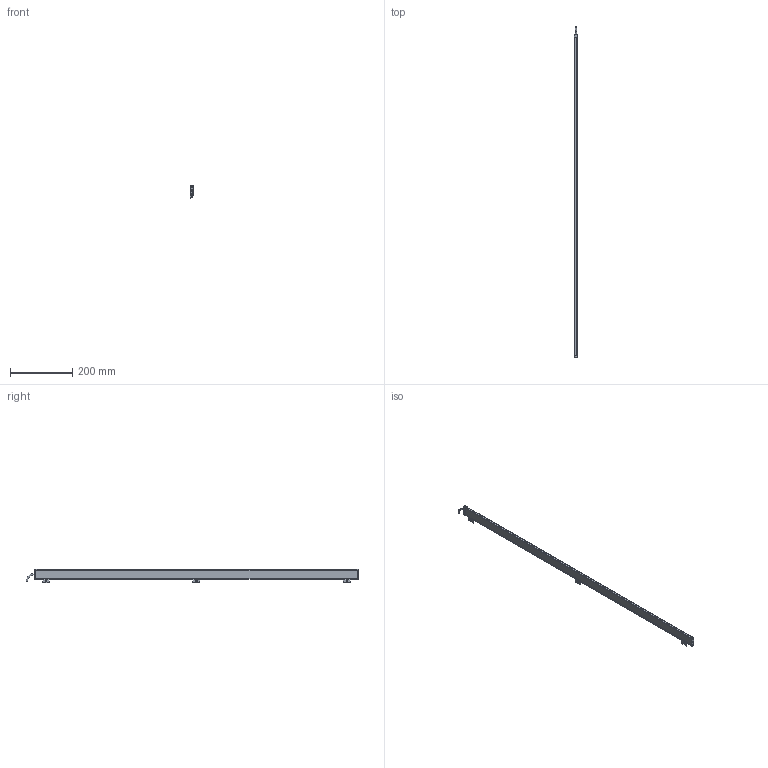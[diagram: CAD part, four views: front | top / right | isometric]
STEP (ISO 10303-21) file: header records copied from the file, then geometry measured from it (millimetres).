
FILE_DESCRIPTION (( 'STEP AP214' ), '1' );
FILE_NAME ('ILG-N-K1-1040mm.STEP', '2017-07-10T13:25:28', ( '' ), ( '' ), 'SwSTEP 2.0', 'SolidWorks 2016', '' );
FILE_SCHEMA (( 'AUTOMOTIVE_DESIGN' ));
Length unit declared in the file: millimetre
Products named in the file (1): ILG-N-K1-1040mm
Bounding box: 10.23 x 1068.25 x 42.41 mm (x, y, z)
Volume: 119096.9 mm3; surface area: 176454.8 mm2
Topology: 12 solids, 12 shells, 532 faces, 1348 edges, 836 vertices
Faces by surface type: plane 296, cylinder 162, cone 64, torus 10
Entity records: 21865 total; most frequent: CARTESIAN_POINT 2865, DIRECTION 2794, ORIENTED_EDGE 2680, EDGE_CURVE 1340, AXIS2_PLACEMENT_3D 973, VECTOR 848, LINE 848, VERTEX_POINT 836
